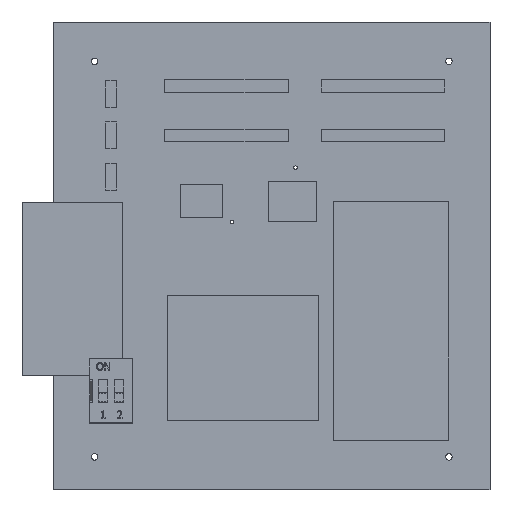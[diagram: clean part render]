
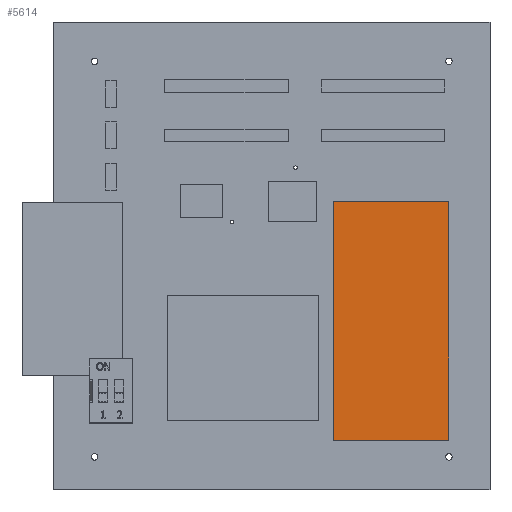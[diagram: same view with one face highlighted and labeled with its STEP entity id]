
A CAD part, top view. The second image highlights one B-rep face of the part: STEP entity #5614.
In plain terms, the highlighted planar face has unit normal (0, 0, 1).
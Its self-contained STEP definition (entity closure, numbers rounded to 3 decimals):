
#509=PLANE('',#6180);
#786=FACE_OUTER_BOUND('',#1264,.T.);
#1264=EDGE_LOOP('',(#5046,#5047,#5048,#5049));
#1720=LINE('',#9520,#2202);
#1723=LINE('',#9526,#2205);
#1726=LINE('',#9532,#2208);
#1729=LINE('',#9536,#2211);
#2202=VECTOR('',#7522,10.);
#2205=VECTOR('',#7527,10.);
#2208=VECTOR('',#7532,10.);
#2211=VECTOR('',#7537,10.);
#2900=VERTEX_POINT('',#9517);
#2901=VERTEX_POINT('',#9519);
#2903=VERTEX_POINT('',#9525);
#2905=VERTEX_POINT('',#9531);
#3616=EDGE_CURVE('',#2901,#2900,#1720,.T.);
#3619=EDGE_CURVE('',#2903,#2901,#1723,.T.);
#3622=EDGE_CURVE('',#2905,#2903,#1726,.T.);
#3625=EDGE_CURVE('',#2900,#2905,#1729,.T.);
#5046=ORIENTED_EDGE('',*,*,#3625,.T.);
#5047=ORIENTED_EDGE('',*,*,#3622,.T.);
#5048=ORIENTED_EDGE('',*,*,#3619,.T.);
#5049=ORIENTED_EDGE('',*,*,#3616,.T.);
#5614=ADVANCED_FACE('',(#786),#509,.T.);
#6180=AXIS2_PLACEMENT_3D('',#9537,#7538,#7539);
#7522=DIRECTION('',(-1.,0.,0.));
#7527=DIRECTION('',(0.,1.,0.));
#7532=DIRECTION('',(1.,0.,0.));
#7537=DIRECTION('',(0.,-1.,0.));
#7538=DIRECTION('center_axis',(0.,0.,1.));
#7539=DIRECTION('ref_axis',(1.,0.,0.));
#9517=CARTESIAN_POINT('',(-8.89,17.78,0.1));
#9519=CARTESIAN_POINT('',(8.89,17.78,0.1));
#9520=CARTESIAN_POINT('',(8.89,17.78,0.1));
#9525=CARTESIAN_POINT('',(8.89,-19.05,0.1));
#9526=CARTESIAN_POINT('',(8.89,-19.05,0.1));
#9531=CARTESIAN_POINT('',(-8.89,-19.05,0.1));
#9532=CARTESIAN_POINT('',(-8.89,-19.05,0.1));
#9536=CARTESIAN_POINT('',(-8.89,17.78,0.1));
#9537=CARTESIAN_POINT('Origin',(0.,-0.635,0.1));
